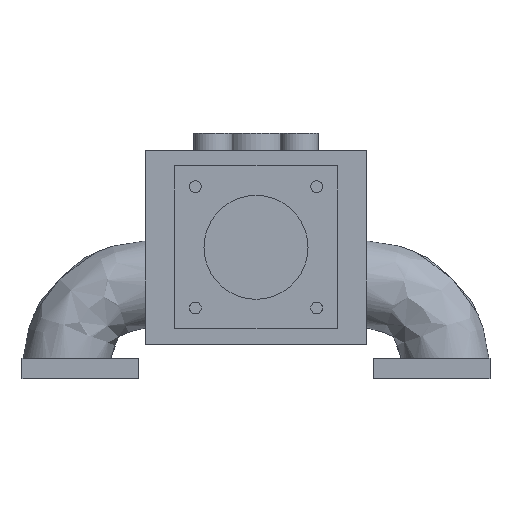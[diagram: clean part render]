
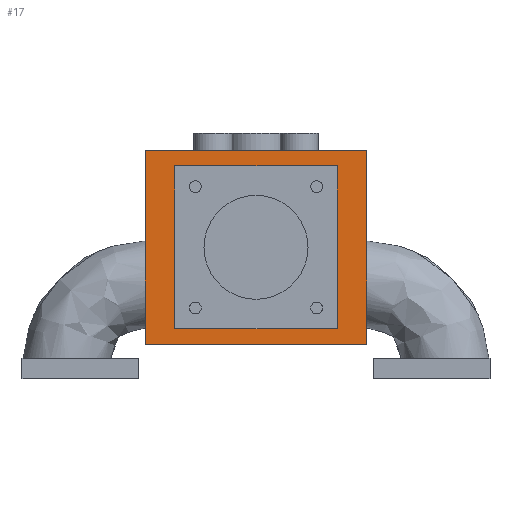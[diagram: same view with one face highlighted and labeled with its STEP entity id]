
A CAD part, left-side view. The second image highlights one B-rep face of the part: STEP entity #17.
In plain terms, the highlighted planar face has unit normal (-1, 0, 0).
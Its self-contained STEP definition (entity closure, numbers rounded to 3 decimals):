
#17 = ADVANCED_FACE('',(#18,#137),#32,.F.);
#18 = FACE_BOUND('',#19,.F.);
#19 = EDGE_LOOP('',(#20,#55,#83,#111));
#20 = ORIENTED_EDGE('',*,*,#21,.F.);
#21 = EDGE_CURVE('',#22,#24,#26,.T.);
#22 = VERTEX_POINT('',#23);
#23 = CARTESIAN_POINT('',(-16.5,-64.,440.));
#24 = VERTEX_POINT('',#25);
#25 = CARTESIAN_POINT('',(-16.5,-64.,551.907));
#26 = SURFACE_CURVE('',#27,(#31,#43),.PCURVE_S1.);
#27 = LINE('',#28,#29);
#28 = CARTESIAN_POINT('',(-16.5,-64.,440.));
#29 = VECTOR('',#30,1.);
#30 = DIRECTION('',(0.,0.,1.));
#31 = PCURVE('',#32,#37);
#32 = PLANE('',#33);
#33 = AXIS2_PLACEMENT_3D('',#34,#35,#36);
#34 = CARTESIAN_POINT('',(-16.5,-64.,440.));
#35 = DIRECTION('',(1.,0.,-0.));
#36 = DIRECTION('',(0.,0.,1.));
#37 = DEFINITIONAL_REPRESENTATION('',(#38),#42);
#38 = LINE('',#39,#40);
#39 = CARTESIAN_POINT('',(0.,0.));
#40 = VECTOR('',#41,1.);
#41 = DIRECTION('',(1.,0.));
#42 = ( GEOMETRIC_REPRESENTATION_CONTEXT(2) 
PARAMETRIC_REPRESENTATION_CONTEXT() REPRESENTATION_CONTEXT('2D SPACE',''
  ) );
#43 = PCURVE('',#44,#49);
#44 = PLANE('',#45);
#45 = AXIS2_PLACEMENT_3D('',#46,#47,#48);
#46 = CARTESIAN_POINT('',(-16.5,-64.,440.));
#47 = DIRECTION('',(-0.,1.,0.));
#48 = DIRECTION('',(0.,0.,1.));
#49 = DEFINITIONAL_REPRESENTATION('',(#50),#54);
#50 = LINE('',#51,#52);
#51 = CARTESIAN_POINT('',(0.,0.));
#52 = VECTOR('',#53,1.);
#53 = DIRECTION('',(1.,0.));
#54 = ( GEOMETRIC_REPRESENTATION_CONTEXT(2) 
PARAMETRIC_REPRESENTATION_CONTEXT() REPRESENTATION_CONTEXT('2D SPACE',''
  ) );
#55 = ORIENTED_EDGE('',*,*,#56,.T.);
#56 = EDGE_CURVE('',#22,#57,#59,.T.);
#57 = VERTEX_POINT('',#58);
#58 = CARTESIAN_POINT('',(-16.5,64.,440.));
#59 = SURFACE_CURVE('',#60,(#64,#71),.PCURVE_S1.);
#60 = LINE('',#61,#62);
#61 = CARTESIAN_POINT('',(-16.5,-64.,440.));
#62 = VECTOR('',#63,1.);
#63 = DIRECTION('',(-0.,1.,0.));
#64 = PCURVE('',#32,#65);
#65 = DEFINITIONAL_REPRESENTATION('',(#66),#70);
#66 = LINE('',#67,#68);
#67 = CARTESIAN_POINT('',(0.,0.));
#68 = VECTOR('',#69,1.);
#69 = DIRECTION('',(0.,-1.));
#70 = ( GEOMETRIC_REPRESENTATION_CONTEXT(2) 
PARAMETRIC_REPRESENTATION_CONTEXT() REPRESENTATION_CONTEXT('2D SPACE',''
  ) );
#71 = PCURVE('',#72,#77);
#72 = PLANE('',#73);
#73 = AXIS2_PLACEMENT_3D('',#74,#75,#76);
#74 = CARTESIAN_POINT('',(-16.5,-64.,440.));
#75 = DIRECTION('',(0.,0.,1.));
#76 = DIRECTION('',(1.,0.,-0.));
#77 = DEFINITIONAL_REPRESENTATION('',(#78),#82);
#78 = LINE('',#79,#80);
#79 = CARTESIAN_POINT('',(0.,0.));
#80 = VECTOR('',#81,1.);
#81 = DIRECTION('',(0.,1.));
#82 = ( GEOMETRIC_REPRESENTATION_CONTEXT(2) 
PARAMETRIC_REPRESENTATION_CONTEXT() REPRESENTATION_CONTEXT('2D SPACE',''
  ) );
#83 = ORIENTED_EDGE('',*,*,#84,.T.);
#84 = EDGE_CURVE('',#57,#85,#87,.T.);
#85 = VERTEX_POINT('',#86);
#86 = CARTESIAN_POINT('',(-16.5,64.,551.907));
#87 = SURFACE_CURVE('',#88,(#92,#99),.PCURVE_S1.);
#88 = LINE('',#89,#90);
#89 = CARTESIAN_POINT('',(-16.5,64.,440.));
#90 = VECTOR('',#91,1.);
#91 = DIRECTION('',(0.,0.,1.));
#92 = PCURVE('',#32,#93);
#93 = DEFINITIONAL_REPRESENTATION('',(#94),#98);
#94 = LINE('',#95,#96);
#95 = CARTESIAN_POINT('',(0.,-128.));
#96 = VECTOR('',#97,1.);
#97 = DIRECTION('',(1.,0.));
#98 = ( GEOMETRIC_REPRESENTATION_CONTEXT(2) 
PARAMETRIC_REPRESENTATION_CONTEXT() REPRESENTATION_CONTEXT('2D SPACE',''
  ) );
#99 = PCURVE('',#100,#105);
#100 = PLANE('',#101);
#101 = AXIS2_PLACEMENT_3D('',#102,#103,#104);
#102 = CARTESIAN_POINT('',(-16.5,64.,440.));
#103 = DIRECTION('',(-0.,1.,0.));
#104 = DIRECTION('',(0.,0.,1.));
#105 = DEFINITIONAL_REPRESENTATION('',(#106),#110);
#106 = LINE('',#107,#108);
#107 = CARTESIAN_POINT('',(0.,0.));
#108 = VECTOR('',#109,1.);
#109 = DIRECTION('',(1.,0.));
#110 = ( GEOMETRIC_REPRESENTATION_CONTEXT(2) 
PARAMETRIC_REPRESENTATION_CONTEXT() REPRESENTATION_CONTEXT('2D SPACE',''
  ) );
#111 = ORIENTED_EDGE('',*,*,#112,.F.);
#112 = EDGE_CURVE('',#24,#85,#113,.T.);
#113 = SURFACE_CURVE('',#114,(#118,#125),.PCURVE_S1.);
#114 = LINE('',#115,#116);
#115 = CARTESIAN_POINT('',(-16.5,-64.,551.907));
#116 = VECTOR('',#117,1.);
#117 = DIRECTION('',(-0.,1.,0.));
#118 = PCURVE('',#32,#119);
#119 = DEFINITIONAL_REPRESENTATION('',(#120),#124);
#120 = LINE('',#121,#122);
#121 = CARTESIAN_POINT('',(111.907,0.));
#122 = VECTOR('',#123,1.);
#123 = DIRECTION('',(0.,-1.));
#124 = ( GEOMETRIC_REPRESENTATION_CONTEXT(2) 
PARAMETRIC_REPRESENTATION_CONTEXT() REPRESENTATION_CONTEXT('2D SPACE',''
  ) );
#125 = PCURVE('',#126,#131);
#126 = PLANE('',#127);
#127 = AXIS2_PLACEMENT_3D('',#128,#129,#130);
#128 = CARTESIAN_POINT('',(-16.5,-64.,551.907));
#129 = DIRECTION('',(0.,0.,1.));
#130 = DIRECTION('',(1.,0.,-0.));
#131 = DEFINITIONAL_REPRESENTATION('',(#132),#136);
#132 = LINE('',#133,#134);
#133 = CARTESIAN_POINT('',(0.,0.));
#134 = VECTOR('',#135,1.);
#135 = DIRECTION('',(0.,1.));
#136 = ( GEOMETRIC_REPRESENTATION_CONTEXT(2) 
PARAMETRIC_REPRESENTATION_CONTEXT() REPRESENTATION_CONTEXT('2D SPACE',''
  ) );
#137 = FACE_BOUND('',#138,.F.);
#138 = EDGE_LOOP('',(#139,#169,#197,#225));
#139 = ORIENTED_EDGE('',*,*,#140,.F.);
#140 = EDGE_CURVE('',#141,#143,#145,.T.);
#141 = VERTEX_POINT('',#142);
#142 = CARTESIAN_POINT('',(-16.5,-47.,448.953));
#143 = VERTEX_POINT('',#144);
#144 = CARTESIAN_POINT('',(-16.5,47.,448.953));
#145 = SURFACE_CURVE('',#146,(#150,#157),.PCURVE_S1.);
#146 = LINE('',#147,#148);
#147 = CARTESIAN_POINT('',(-16.5,-47.,448.953));
#148 = VECTOR('',#149,1.);
#149 = DIRECTION('',(0.,1.,0.));
#150 = PCURVE('',#32,#151);
#151 = DEFINITIONAL_REPRESENTATION('',(#152),#156);
#152 = LINE('',#153,#154);
#153 = CARTESIAN_POINT('',(8.953,-17.));
#154 = VECTOR('',#155,1.);
#155 = DIRECTION('',(0.,-1.));
#156 = ( GEOMETRIC_REPRESENTATION_CONTEXT(2) 
PARAMETRIC_REPRESENTATION_CONTEXT() REPRESENTATION_CONTEXT('2D SPACE',''
  ) );
#157 = PCURVE('',#158,#163);
#158 = PLANE('',#159);
#159 = AXIS2_PLACEMENT_3D('',#160,#161,#162);
#160 = CARTESIAN_POINT('',(-16.5,-47.,448.953));
#161 = DIRECTION('',(0.,0.,-1.));
#162 = DIRECTION('',(-1.,0.,0.));
#163 = DEFINITIONAL_REPRESENTATION('',(#164),#168);
#164 = LINE('',#165,#166);
#165 = CARTESIAN_POINT('',(0.,0.));
#166 = VECTOR('',#167,1.);
#167 = DIRECTION('',(0.,1.));
#168 = ( GEOMETRIC_REPRESENTATION_CONTEXT(2) 
PARAMETRIC_REPRESENTATION_CONTEXT() REPRESENTATION_CONTEXT('2D SPACE',''
  ) );
#169 = ORIENTED_EDGE('',*,*,#170,.F.);
#170 = EDGE_CURVE('',#171,#141,#173,.T.);
#171 = VERTEX_POINT('',#172);
#172 = CARTESIAN_POINT('',(-16.5,-47.,542.953));
#173 = SURFACE_CURVE('',#174,(#178,#185),.PCURVE_S1.);
#174 = LINE('',#175,#176);
#175 = CARTESIAN_POINT('',(-16.5,-47.,542.953));
#176 = VECTOR('',#177,1.);
#177 = DIRECTION('',(0.,0.,-1.));
#178 = PCURVE('',#32,#179);
#179 = DEFINITIONAL_REPRESENTATION('',(#180),#184);
#180 = LINE('',#181,#182);
#181 = CARTESIAN_POINT('',(102.953,-17.));
#182 = VECTOR('',#183,1.);
#183 = DIRECTION('',(-1.,0.));
#184 = ( GEOMETRIC_REPRESENTATION_CONTEXT(2) 
PARAMETRIC_REPRESENTATION_CONTEXT() REPRESENTATION_CONTEXT('2D SPACE',''
  ) );
#185 = PCURVE('',#186,#191);
#186 = PLANE('',#187);
#187 = AXIS2_PLACEMENT_3D('',#188,#189,#190);
#188 = CARTESIAN_POINT('',(-16.5,-47.,542.953));
#189 = DIRECTION('',(0.,1.,0.));
#190 = DIRECTION('',(-1.,0.,0.));
#191 = DEFINITIONAL_REPRESENTATION('',(#192),#196);
#192 = LINE('',#193,#194);
#193 = CARTESIAN_POINT('',(0.,0.));
#194 = VECTOR('',#195,1.);
#195 = DIRECTION('',(0.,-1.));
#196 = ( GEOMETRIC_REPRESENTATION_CONTEXT(2) 
PARAMETRIC_REPRESENTATION_CONTEXT() REPRESENTATION_CONTEXT('2D SPACE',''
  ) );
#197 = ORIENTED_EDGE('',*,*,#198,.T.);
#198 = EDGE_CURVE('',#171,#199,#201,.T.);
#199 = VERTEX_POINT('',#200);
#200 = CARTESIAN_POINT('',(-16.5,47.,542.953));
#201 = SURFACE_CURVE('',#202,(#206,#213),.PCURVE_S1.);
#202 = LINE('',#203,#204);
#203 = CARTESIAN_POINT('',(-16.5,-47.,542.953));
#204 = VECTOR('',#205,1.);
#205 = DIRECTION('',(0.,1.,0.));
#206 = PCURVE('',#32,#207);
#207 = DEFINITIONAL_REPRESENTATION('',(#208),#212);
#208 = LINE('',#209,#210);
#209 = CARTESIAN_POINT('',(102.953,-17.));
#210 = VECTOR('',#211,1.);
#211 = DIRECTION('',(0.,-1.));
#212 = ( GEOMETRIC_REPRESENTATION_CONTEXT(2) 
PARAMETRIC_REPRESENTATION_CONTEXT() REPRESENTATION_CONTEXT('2D SPACE',''
  ) );
#213 = PCURVE('',#214,#219);
#214 = PLANE('',#215);
#215 = AXIS2_PLACEMENT_3D('',#216,#217,#218);
#216 = CARTESIAN_POINT('',(-16.5,-47.,542.953));
#217 = DIRECTION('',(0.,0.,-1.));
#218 = DIRECTION('',(-1.,0.,0.));
#219 = DEFINITIONAL_REPRESENTATION('',(#220),#224);
#220 = LINE('',#221,#222);
#221 = CARTESIAN_POINT('',(0.,0.));
#222 = VECTOR('',#223,1.);
#223 = DIRECTION('',(0.,1.));
#224 = ( GEOMETRIC_REPRESENTATION_CONTEXT(2) 
PARAMETRIC_REPRESENTATION_CONTEXT() REPRESENTATION_CONTEXT('2D SPACE',''
  ) );
#225 = ORIENTED_EDGE('',*,*,#226,.T.);
#226 = EDGE_CURVE('',#199,#143,#227,.T.);
#227 = SURFACE_CURVE('',#228,(#232,#239),.PCURVE_S1.);
#228 = LINE('',#229,#230);
#229 = CARTESIAN_POINT('',(-16.5,47.,542.953));
#230 = VECTOR('',#231,1.);
#231 = DIRECTION('',(0.,0.,-1.));
#232 = PCURVE('',#32,#233);
#233 = DEFINITIONAL_REPRESENTATION('',(#234),#238);
#234 = LINE('',#235,#236);
#235 = CARTESIAN_POINT('',(102.953,-111.));
#236 = VECTOR('',#237,1.);
#237 = DIRECTION('',(-1.,0.));
#238 = ( GEOMETRIC_REPRESENTATION_CONTEXT(2) 
PARAMETRIC_REPRESENTATION_CONTEXT() REPRESENTATION_CONTEXT('2D SPACE',''
  ) );
#239 = PCURVE('',#240,#245);
#240 = PLANE('',#241);
#241 = AXIS2_PLACEMENT_3D('',#242,#243,#244);
#242 = CARTESIAN_POINT('',(-16.5,47.,542.953));
#243 = DIRECTION('',(0.,1.,0.));
#244 = DIRECTION('',(-1.,0.,0.));
#245 = DEFINITIONAL_REPRESENTATION('',(#246),#250);
#246 = LINE('',#247,#248);
#247 = CARTESIAN_POINT('',(0.,0.));
#248 = VECTOR('',#249,1.);
#249 = DIRECTION('',(0.,-1.));
#250 = ( GEOMETRIC_REPRESENTATION_CONTEXT(2) 
PARAMETRIC_REPRESENTATION_CONTEXT() REPRESENTATION_CONTEXT('2D SPACE',''
  ) );
